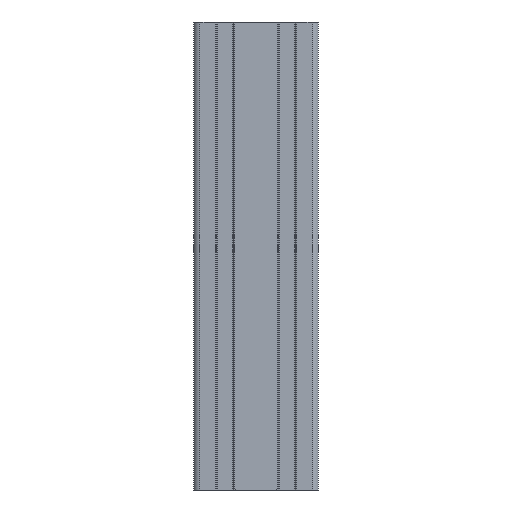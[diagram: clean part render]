
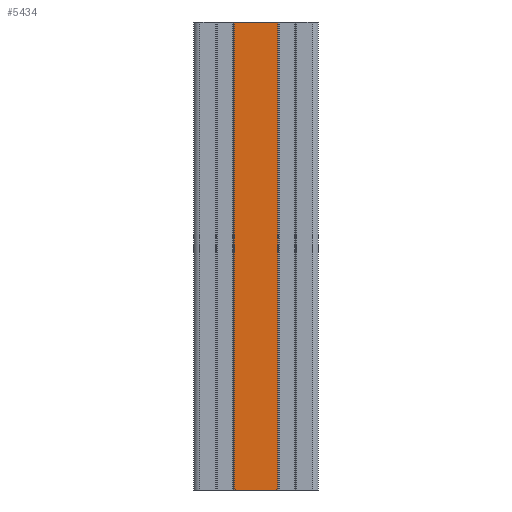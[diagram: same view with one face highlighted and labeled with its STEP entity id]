
A CAD part, front view. The second image highlights one B-rep face of the part: STEP entity #5434.
In plain terms, the highlighted planar face has unit normal (0, -1, 0).
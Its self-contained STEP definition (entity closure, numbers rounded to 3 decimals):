
#5376=CARTESIAN_POINT('',(14.,-40.0,100.0));
#5377=VERTEX_POINT('',#5376);
#5385=CARTESIAN_POINT('',(14.,-40.0,-200.0));
#5386=VERTEX_POINT('',#5385);
#5387=CARTESIAN_POINT('',(14.,-40.0,-200.0));
#5388=DIRECTION('',(0.0,0.0,1.0));
#5389=VECTOR('',#5388,300.0);
#5390=LINE('',#5387,#5389);
#5391=EDGE_CURVE('',#5386,#5377,#5390,.T.);
#5404=CARTESIAN_POINT('',(14.,-40.0,-200.0));
#5405=DIRECTION('',(0.0,-1.0,0.0));
#5406=DIRECTION('',(0.0,0.0,-1.0));
#5407=AXIS2_PLACEMENT_3D('',#5404,#5405,#5406);
#5408=PLANE('',#5407);
#5409=CARTESIAN_POINT('',(-14.,-40.0,100.0));
#5410=VERTEX_POINT('',#5409);
#5411=CARTESIAN_POINT('',(14.,-40.0,100.0));
#5412=DIRECTION('',(-1.0,0.0,0.0));
#5413=VECTOR('',#5412,28.);
#5414=LINE('',#5411,#5413);
#5415=EDGE_CURVE('',#5377,#5410,#5414,.T.);
#5416=ORIENTED_EDGE('',*,*,#5415,.T.);
#5417=CARTESIAN_POINT('',(-14.,-40.0,-200.0));
#5418=VERTEX_POINT('',#5417);
#5419=CARTESIAN_POINT('',(-14.,-40.0,-200.0));
#5420=DIRECTION('',(0.0,0.0,1.0));
#5421=VECTOR('',#5420,300.0);
#5422=LINE('',#5419,#5421);
#5423=EDGE_CURVE('',#5418,#5410,#5422,.T.);
#5424=ORIENTED_EDGE('',*,*,#5423,.F.);
#5425=CARTESIAN_POINT('',(-14.,-40.0,-200.0));
#5426=DIRECTION('',(1.0,0.0,0.0));
#5427=VECTOR('',#5426,28.);
#5428=LINE('',#5425,#5427);
#5429=EDGE_CURVE('',#5418,#5386,#5428,.T.);
#5430=ORIENTED_EDGE('',*,*,#5429,.T.);
#5431=ORIENTED_EDGE('',*,*,#5391,.T.);
#5432=EDGE_LOOP('',(#5416,#5424,#5430,#5431));
#5433=FACE_OUTER_BOUND('',#5432,.T.);
#5434=ADVANCED_FACE('',(#5433),#5408,.T.);
